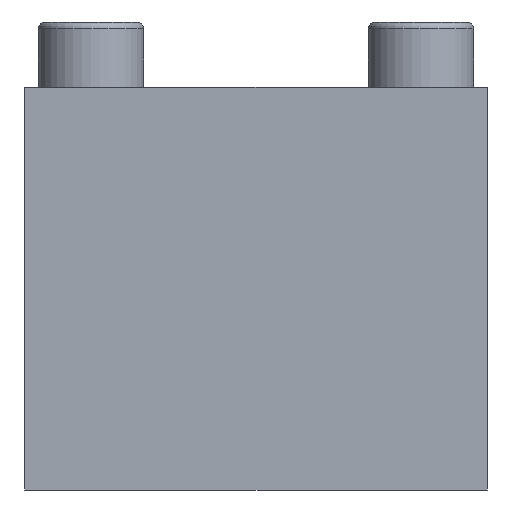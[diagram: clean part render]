
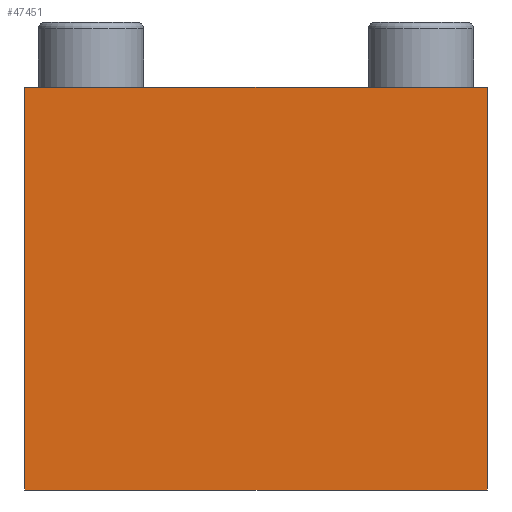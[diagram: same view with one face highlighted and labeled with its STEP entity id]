
A CAD part, front view. The second image highlights one B-rep face of the part: STEP entity #47451.
In plain terms, the highlighted planar face has unit normal (0, -1, 0).
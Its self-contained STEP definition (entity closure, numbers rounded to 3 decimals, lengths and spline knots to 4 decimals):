
#2614=FACE_OUTER_BOUND('',#5394,.T.);
#5394=EDGE_LOOP('',(#31538,#31539,#31540,#31541));
#8007=LINE('',#61341,#13203);
#9338=LINE('',#66601,#14534);
#9341=LINE('',#66607,#14537);
#9342=LINE('',#66608,#14538);
#13203=VECTOR('',#52026,7.);
#14534=VECTOR('',#53571,6.1);
#14537=VECTOR('',#53576,6.1);
#14538=VECTOR('',#53577,7.);
#18399=VERTEX_POINT('',#61338);
#18400=VERTEX_POINT('',#61340);
#20286=VERTEX_POINT('',#66600);
#20288=VERTEX_POINT('',#66606);
#22903=EDGE_CURVE('',#18399,#18400,#8007,.T.);
#24790=EDGE_CURVE('',#18399,#20286,#9338,.T.);
#24793=EDGE_CURVE('',#18400,#20288,#9341,.T.);
#24794=EDGE_CURVE('',#20288,#20286,#9342,.T.);
#31538=ORIENTED_EDGE('',*,*,#24793,.F.);
#31539=ORIENTED_EDGE('',*,*,#22903,.F.);
#31540=ORIENTED_EDGE('',*,*,#24790,.T.);
#31541=ORIENTED_EDGE('',*,*,#24794,.F.);
#43042=PLANE('',#50071);
#47451=ADVANCED_FACE('',(#2614),#43042,.T.);
#50071=AXIS2_PLACEMENT_3D('',#66605,#53574,#53575);
#52026=DIRECTION('',(1.,0.,0.));
#53571=DIRECTION('',(0.,0.,-1.));
#53574=DIRECTION('center_axis',(0.,-1.,0.));
#53575=DIRECTION('ref_axis',(-1.,0.,0.));
#53576=DIRECTION('',(0.,0.,-1.));
#53577=DIRECTION('',(-1.,0.,0.));
#61338=CARTESIAN_POINT('',(-3.5,-18.5,4.85));
#61340=CARTESIAN_POINT('',(3.5,-18.5,4.85));
#61341=CARTESIAN_POINT('',(3.5,-18.5,4.85));
#66600=CARTESIAN_POINT('',(-3.5,-18.5,-1.25));
#66601=CARTESIAN_POINT('',(-3.5,-18.5,0.));
#66605=CARTESIAN_POINT('Origin',(3.5,-18.5,3.6));
#66606=CARTESIAN_POINT('',(3.5,-18.5,-1.25));
#66607=CARTESIAN_POINT('',(3.5,-18.5,0.));
#66608=CARTESIAN_POINT('',(3.5,-18.5,-1.25));
